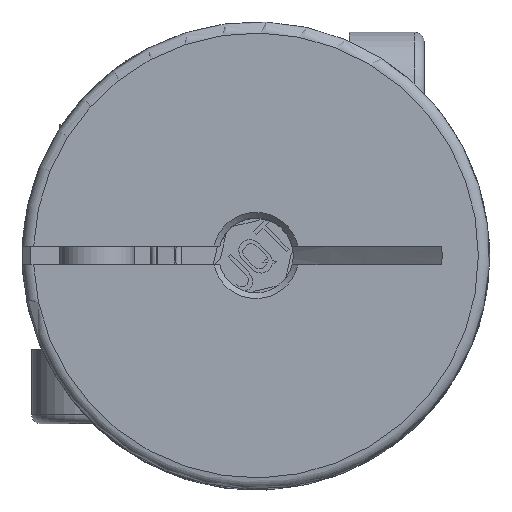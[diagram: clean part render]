
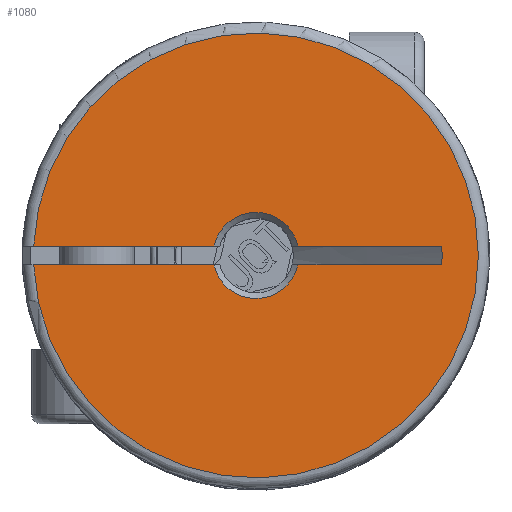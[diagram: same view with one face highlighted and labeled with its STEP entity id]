
A CAD part, top view. The second image highlights one B-rep face of the part: STEP entity #1080.
In plain terms, the highlighted planar face has unit normal (0, 0, 1).
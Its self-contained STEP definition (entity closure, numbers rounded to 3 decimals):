
#644=FACE_OUTER_BOUND('',#3632,.T.);
#1080=ADVANCED_FACE('',(#644),#1413,.T.);
#1413=PLANE('',#8712);
#2237=LINE('',#13856,#3097);
#2238=LINE('',#13861,#3098);
#2239=LINE('',#13865,#3099);
#2240=LINE('',#13869,#3100);
#3097=VECTOR('',#10772,1.);
#3098=VECTOR('',#10775,1.);
#3099=VECTOR('',#10778,1.);
#3100=VECTOR('',#10781,1.);
#3632=EDGE_LOOP('',(#5748,#5749,#5750,#5751,#5752,#5753,#5754,#5755));
#5748=ORIENTED_EDGE('',*,*,#7765,.F.);
#5749=ORIENTED_EDGE('',*,*,#7766,.T.);
#5750=ORIENTED_EDGE('',*,*,#7767,.F.);
#5751=ORIENTED_EDGE('',*,*,#7768,.F.);
#5752=ORIENTED_EDGE('',*,*,#7769,.T.);
#5753=ORIENTED_EDGE('',*,*,#7770,.T.);
#5754=ORIENTED_EDGE('',*,*,#7771,.T.);
#5755=ORIENTED_EDGE('',*,*,#7772,.F.);
#6659=VERTEX_POINT('',#13857);
#6660=VERTEX_POINT('',#13858);
#6661=VERTEX_POINT('',#13860);
#6662=VERTEX_POINT('',#13862);
#6663=VERTEX_POINT('',#13864);
#6664=VERTEX_POINT('',#13866);
#6665=VERTEX_POINT('',#13868);
#6666=VERTEX_POINT('',#13870);
#7765=EDGE_CURVE('',#6659,#6660,#2237,.T.);
#7766=EDGE_CURVE('',#6659,#6661,#8057,.T.);
#7767=EDGE_CURVE('',#6662,#6661,#2238,.T.);
#7768=EDGE_CURVE('',#6663,#6662,#8058,.T.);
#7769=EDGE_CURVE('',#6663,#6664,#2239,.T.);
#7770=EDGE_CURVE('',#6664,#6665,#8059,.T.);
#7771=EDGE_CURVE('',#6665,#6666,#2240,.T.);
#7772=EDGE_CURVE('',#6660,#6666,#8060,.T.);
#8057=CIRCLE('',#8708,2.3);
#8058=CIRCLE('',#8709,9.957);
#8059=CIRCLE('',#8710,2.3);
#8060=CIRCLE('',#8711,11.9);
#8708=AXIS2_PLACEMENT_3D('',#13859,#10773,#10774);
#8709=AXIS2_PLACEMENT_3D('',#13863,#10776,#10777);
#8710=AXIS2_PLACEMENT_3D('',#13867,#10779,#10780);
#8711=AXIS2_PLACEMENT_3D('',#13871,#10782,#10783);
#8712=AXIS2_PLACEMENT_3D('',#13872,#10784,#10785);
#10772=DIRECTION('',(-1.,0.,0.));
#10773=DIRECTION('',(0.,0.,-1.));
#10774=DIRECTION('',(1.,0.,0.));
#10775=DIRECTION('',(-1.,0.,0.));
#10776=DIRECTION('',(0.,0.,1.));
#10777=DIRECTION('',(0.,1.,0.));
#10778=DIRECTION('',(-1.,0.,0.));
#10779=DIRECTION('',(0.,0.,-1.));
#10780=DIRECTION('',(1.,0.,0.));
#10781=DIRECTION('',(-1.,0.,0.));
#10782=DIRECTION('',(0.,0.,-1.));
#10783=DIRECTION('',(1.,0.,0.));
#10784=DIRECTION('',(0.,0.,1.));
#10785=DIRECTION('',(1.,0.,0.));
#13856=CARTESIAN_POINT('',(-95.702,46.675,-11.9));
#13857=CARTESIAN_POINT('',(-97.947,46.675,-11.9));
#13858=CARTESIAN_POINT('',(-107.591,46.675,-11.9));
#13859=CARTESIAN_POINT('',(-95.702,46.175,-11.9));
#13860=CARTESIAN_POINT('',(-93.457,46.675,-11.9));
#13861=CARTESIAN_POINT('',(-95.702,46.675,-11.9));
#13862=CARTESIAN_POINT('',(-85.758,46.675,-11.9));
#13863=CARTESIAN_POINT('',(-95.702,46.175,-11.9));
#13864=CARTESIAN_POINT('',(-85.758,45.675,-11.9));
#13865=CARTESIAN_POINT('',(-95.702,45.675,-11.9));
#13866=CARTESIAN_POINT('',(-93.457,45.675,-11.9));
#13867=CARTESIAN_POINT('',(-95.702,46.175,-11.9));
#13868=CARTESIAN_POINT('',(-97.947,45.675,-11.9));
#13869=CARTESIAN_POINT('',(-95.702,45.675,-11.9));
#13870=CARTESIAN_POINT('',(-107.591,45.675,-11.9));
#13871=CARTESIAN_POINT('',(-95.702,46.175,-11.9));
#13872=CARTESIAN_POINT('',(-95.702,46.175,-11.9));
